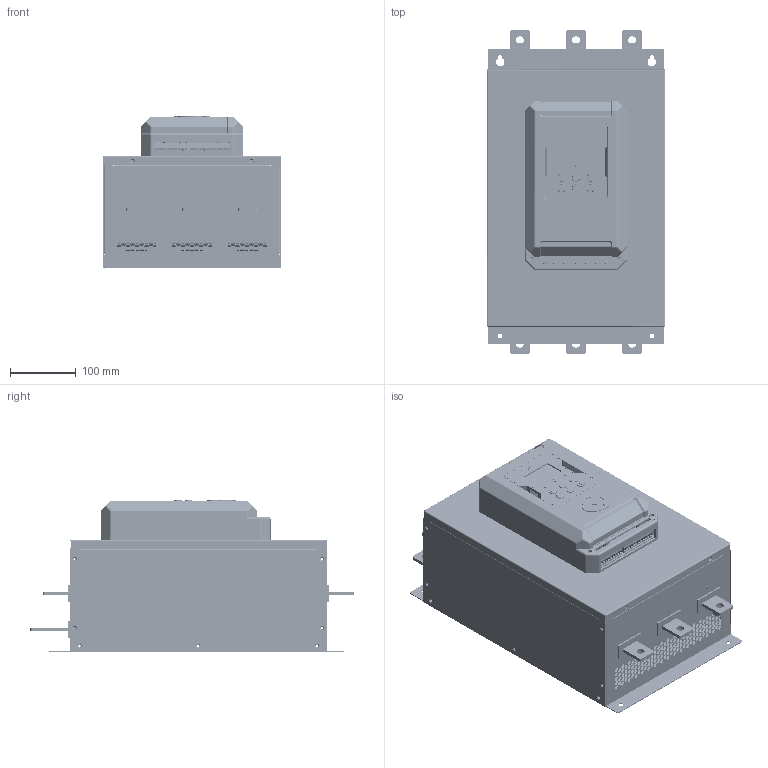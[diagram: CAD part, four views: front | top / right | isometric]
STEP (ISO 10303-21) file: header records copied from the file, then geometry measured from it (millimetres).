
FILE_DESCRIPTION (( 'STEP AP203' ), '1' );
FILE_NAME ('Óñòðîéñòâî ïëàâíîãî ïóñêà _ SSIP-160_320-04.STEP', '2025-03-17T07:54:26', ( '' ), ( '' ), 'SwSTEP 2.0', 'SolidWorks 2021', '' );
FILE_SCHEMA (( 'CONFIG_CONTROL_DESIGN' ));
Length unit declared in the file: millimetre
Products named in the file (65): Êîííåêòîð PLS (DS1021)_4P; MB2.5-VC5.08 ﾏ; MA2.5-H5.08_12P; Äèñïëåé LM6029ACW; 嵙縺 8ZR.580.364 RST; ﾒ瀨瑣ⅱ ZR-022T2; Ïàíåëü óïðàâëåíèÿ_SSIP-KP; Êîííåêòîð XH2.54_2A; Äèîäíûé ìîñò GBU816; 轉謶嚦闉 10D-15; 秮鳧賥嚦闉 TO-3P; Ñòåíêà ëåâàÿ 8ZR.050.365; Êîííåêòîð VH3.96_5A; Êëàâèàòóðà ïàíåëè óïðàâëåíèÿ R7C-S_SSIP; Êîííåêòîð TJC2_1A; Ñòåíêà çàäíÿÿ 8ZR.024.362; Óçåë óïðàâëåíèÿ R7C_SSIP; Ñåðäå÷íèê äðîññåëÿ; Èçîëÿòîð øèííûé; Êîííåêòîð RJ45 HY52A-8; Êðûøêà ïàíåëè óïðàâëåíèÿ R7C-C; 扱闀罻 12x12x10; MB2.5-VC5.08_10P; MA2.5-H5.08 ﾖ; Øàéáà ïðóæèííàÿ DIN 127 (A)_Œ3; MA2.5-H5.08 ﾁ; Äèñïëåé LM6029ACW ñ êîííåêòîðîì 16P; 嵙縺 8ZR.580.365 UVW; Ëèöåâàÿ ïàíåëü 8ZR.314.362; MB2.5-VC5.08_12P; Ëàìïà ñâåòîäèîäíàÿ_‡¥«¥­ ï; 署赅 8ZR.050.363; ﾄ湜 R7C-D; Äðîññåëü UTNÐ; ﾒ瀨瑣ⅱ 055T4; Êîíäåíñàòîð ýëåêòðîëèòè÷åñêèé Ô10 H20 k5 _ 470ìêô 35Â; Ïëàòà óïðàâëåíèÿ R7; Ëèöåâàÿ ïàíåëü R7C-B; Øàéáà ïëîñêàÿ DIN 125 (A)_Œ3; MA2.5-H5.08_10P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
Assembly tree (137 placements, depth 6):
  Óñòðîéñòâî ïëàâíîãî ïóñêà _ SSIP-160_320-04
    扻豵鵨 R7B-E440
      Ñòåíêà çàäíÿÿ 8ZR.024.362
      Ñòåíêà ëåâàÿ 8ZR.050.365
      Ñòåíêà ïðàâàÿ 8ZR.050.366
      署赅 8ZR.050.363
      Äíèùå 8ZR.050.364
      Ëèöåâàÿ ïàíåëü 8ZR.314.362
    Èçîëÿòîð øèííûé  x9
    Óçåë óïðàâëåíèÿ R7C_SSIP
      Ëèöåâàÿ ïàíåëü R7C-B
      Ïëàòà óïðàâëåíèÿ R7
        Îñíîâà ïëàòû óïðàâëåíèÿ R7
        Êîííåêòîð VH3.96_5A  x3
        Êîííåêòîð XH2.54_4A
        Êîííåêòîð XH2.54_2A  x5
        Êîííåêòîð VH3.96_2A  x4
        MB2.5-VC5.08_10P
          MB2.5-VC5.08 ﾖ  x8
          MB2.5-VC5.08 ﾏ
          MB2.5-VC5.08 ﾋ
        MB2.5-VC5.08_12P
          MB2.5-VC5.08 ﾖ  x10
          MB2.5-VC5.08 ﾏ
          MB2.5-VC5.08 ﾋ
        ﾒ瀨瑣ⅱ ZR-022T2  x3
        ﾒ瀨瑣ⅱ 055T4
        Êîííåêòîð RJ45 HY52A-8
        Ñèëîâîå ðåëå HF46F_24-HS  x2
        Ñèëîâîå ðåëå 892-1
        Òðàíçèñòîð ñ ðàäèàòîðîì TO-3P
          秮鳧賥嚦闉 TO-3P
          Ðàäèàòîð òðàíçèñòîðà SRX-2316-30 (Ø23Ã16Â30)
          Âèíò DIN 7985 PH_Œ3å10
          Øàéáà ïëîñêàÿ DIN 125 (A)_Œ3
          Øàéáà ïðóæèííàÿ DIN 127 (A)_Œ3
        Êîíäåíñàòîð ýëåêòðîëèòè÷åñêèé Ô10 H20 k5 _ 470ìêô 35Â  x3
        Êîíäåíñàòîð ýëåêòðîëèòè÷åñêèé Ô12.5 H25 k5 _ 1000ìêô 35Â  x2
        Äðîññåëü UTNÐ
          Ñåðäå÷íèê äðîññåëÿ
          Êàòóøêà äðîññåëÿ
        Äèîäíûé ìîñò GBU816
        轉謶嚦闉 10D-15
        MA2.5-H5.08_10P
          MA2.5-H5.08 ﾁ  x2
          MA2.5-H5.08 ﾖ  x8
        MA2.5-H5.08_12P
          MA2.5-H5.08 ﾁ  x2
          MA2.5-H5.08 ﾖ  x10
        Êîííåêòîð PLS (DS1021)_4P
        Êîííåêòîð TJC2_1A
        Êîíäåíñàòîð ýëåêòðîëèòè÷åñêèé Ô22.3 H32 k10 _ 22ìêô 400Â  x2
      Èçîëÿòîð 8ZR.750.211
      Ïàíåëü óïðàâëåíèÿ_SSIP-KP
        Êðûøêà ïàíåëè óïðàâëåíèÿ R7C-C
        Êëàâèàòóðà ïàíåëè óïðàâëåíèÿ R7C-S_SSIP
        Ôàëüøïàíåëü R7C-Ð_SSIP
        Ïëàòà ïàíåëè óïïðàâëåíèÿ R7BC-PFC
          Îñíîâà ïëàòû ïàíåëè óïðàâëåíèÿ
          扱闀罻 12x12x10  x6
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Bounding box: 270 x 490 x 231.6 mm (x, y, z)
Volume: 1362071.1 mm3; surface area: 1583940.5 mm2
Topology: 133 solids, 133 shells, 13790 faces, 36764 edges, 24022 vertices
Faces by surface type: plane 10335, cylinder 1967, bspline 1312, cone 144, sphere 28, torus 4
Entity records: 308537 total; most frequent: CARTESIAN_POINT 104854, ORIENTED_EDGE 42396, DIRECTION 35744, EDGE_CURVE 21198, VECTOR 16088, LINE 16088, VERTEX_POINT 13895, AXIS2_PLACEMENT_3D 9828
